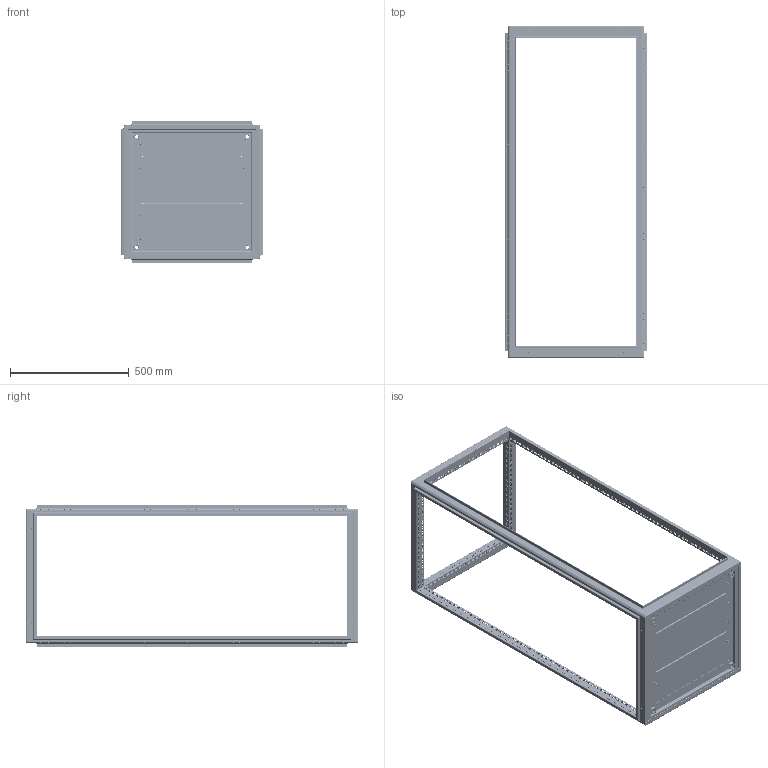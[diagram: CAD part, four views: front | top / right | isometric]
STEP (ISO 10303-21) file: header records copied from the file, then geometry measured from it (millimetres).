
FILE_DESCRIPTION(('STEP AP242'), '1');
FILE_NAME('ÊÑÊ.PRO.S.140.60.60 Êàðêàñ_ñåêöèîíèðîâàíèå', '', ('UNSPECIFIED'), ('UNSPECIFIED'), 'C3D Converter', 'C3D Toolkit', '');
FILE_SCHEMA(('AP242_MANAGED_MODEL_BASED_3D_ENGINEERING_MIM_LF { 1 0 10303 442 1 1 4 }'));
Length unit declared in the file: millimetre
Products named in the file (11): КСК.PRO.S.140.60.60; КСК.PRO.60.60; КСК.PRO.140; КСК.PRO.S.140; 2008.60.200; 2007.60.75; 2007.60.175
Assembly tree (19 placements, depth 2):
  КСК.PRO.S.140.60.60
    КСК.PRO.60.60
    КСК.PRO.140
    КСК.PRO.60.60
    КСК.PRO.140
    КСК.PRO.S.140
    КСК.PRO.S.140
    2008.60.200
    2007.60.75
    2007.60.175
    (unnamed)  x10
Bounding box: 597 x 1397 x 597 mm (x, y, z)
Volume: 2732161.6 mm3; surface area: 3594930.1 mm2
Topology: 19 solids, 19 shells, 6879 faces, 19381 edges, 12687 vertices
Faces by surface type: plane 4821, cylinder 1656, cone 282, bspline 60, sphere 32, torus 28
Full cylindrical faces by diameter (mm): 3.242 x56, 4.134 x110, 4.5 x1002, 4.8 x10, 6 x56, 7 x110, 10.106 x4, 13.835 x4, 14 x4, 21.545 x4
Entity records: 236589 total; most frequent: CARTESIAN_POINT 38792, ORIENTED_EDGE 34330, DIRECTION 33496, EDGE_CURVE 17165, LINE 13758, VECTOR 13758, EDGE_LOOP 12452, VERTEX_POINT 12235
